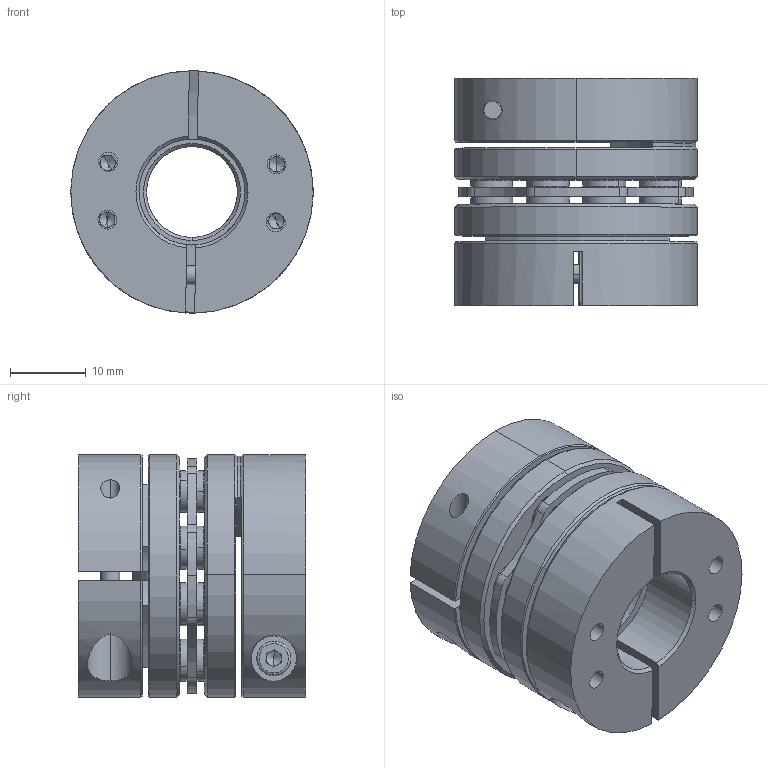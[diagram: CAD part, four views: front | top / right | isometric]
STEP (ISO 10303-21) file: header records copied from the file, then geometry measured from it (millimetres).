
FILE_DESCRIPTION (( 'STEP AP203' ), '1' );
FILE_NAME ('LDG-32-B1-12-14.STEP', '2021-10-28T05:17:54', ( '' ), ( '' ), 'SwSTEP 2.0', 'SolidWorks 2018', '' );
FILE_SCHEMA (( 'CONFIG_CONTROL_DESIGN' ));
Length unit declared in the file: millimetre
Products named in the file (2): LDG-32-B1-12-14; 錨璃5^LDG-32蚾饜芞1
Assembly tree (1 placements, depth 2):
  LDG-32-B1-12-14
    錨璃5^LDG-32蚾饜芞1
Bounding box: 32 x 30 x 32 mm (x, y, z)
Volume: 16512.4 mm3; surface area: 12958.1 mm2
Topology: 1 solids, 11 shells, 795 faces, 1967 edges, 1216 vertices
Faces by surface type: cylinder 301, plane 244, cone 230, torus 20
Entity records: 24191 total; most frequent: CARTESIAN_POINT 4472, DIRECTION 4465, ORIENTED_EDGE 3878, EDGE_CURVE 1939, AXIS2_PLACEMENT_3D 1819, VERTEX_POINT 1216, CIRCLE 1020, EDGE_LOOP 939
